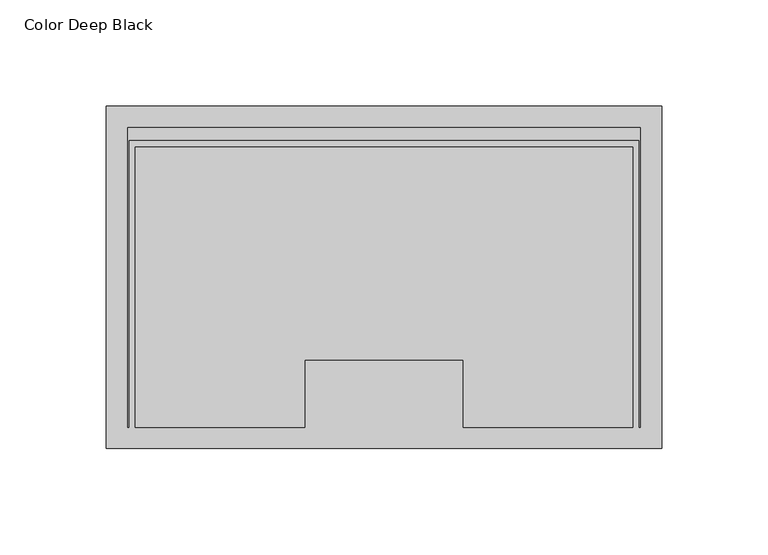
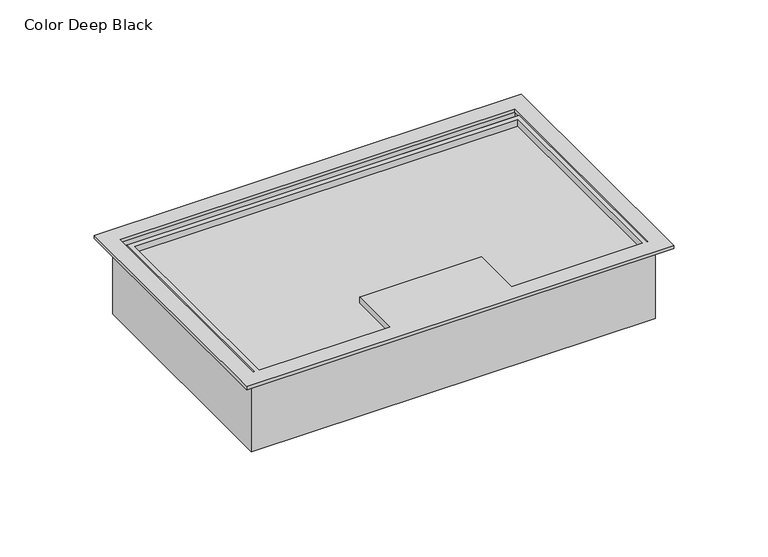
"""IFC4 building model written with IfcOpenShell, lengths in millimetres: proxy geometry, Electrical_Installation_Hager_VE-EE_Cover-KDE04 : Color Deep Black."""

from ifc_helpers import new_model, si_unit, frame, origin, place, context, project, spatial, polyline, outline, extrude, faceted_brep, source, transform, mapped, element, save


def color_deep_black_919f03ab(model_context):
    return source(origin(), model_context, "Body", "SolidModel", [
        faceted_brep([(130.5, 80.5, 2.0), (-130.5, 80.5, 2.0), (-130.5, -80.5, 2.0), (130.5, -80.5, 2.0), (117.0, 61.25, 2.0), (117.0, -70.5, 2.0), (37.25, -70.5, 2.0), (37.25, -38.75, 2.0), (-37.25, -38.75, 2.0), (-37.25, -70.5, 2.0), (-117.0, -70.5, 2.0), (-117.0, 61.25, 2.0), (120.0, 64.5, 2.0), (-120.0, 64.5, 2.0), (-120.0, -70.5, 2.0), (-120.5, -70.5, 2.0), (-120.5, 70.5, 2.0), (120.5, 70.5, 2.0), (120.5, -70.5, 2.0), (120.0, -70.5, 2.0), (120.0, 64.5, -2.0), (120.0, -75.5, -2.0), (34.0, -75.5, -2.0), (-33.5, -75.5, -2.0), (-120.0, -75.5, -2.0), (-120.0, 64.5, -2.0), (117.0, 61.25, -2.0), (-117.0, 61.25, -2.0), (-117.0, -70.5, -2.0), (-37.25, -70.5, -2.0), (-37.25, -38.75, -2.0), (37.25, -38.75, -2.0), (37.25, -70.5, -2.0), (117.0, -70.5, -2.0), (117.0, -70.5, 0.0), (37.25, -70.5, 0.0), (-37.25, -70.5, 0.0), (-117.0, -70.5, 0.0), (-120.0, -75.5, 0.0), (-120.0, -70.5, 0.0), (-33.5, -75.5, 0.0), (34.0, -75.5, 0.0), (120.0, -75.5, 0.0), (120.0, -70.5, 0.0), (130.5, 80.5, 0.0), (130.5, -80.5, 0.0), (-130.5, -80.5, 0.0), (-130.5, 80.5, 0.0), (120.5, 70.5, 0.0), (-120.5, 70.5, 0.0), (-120.5, -70.5, 0.0), (120.5, -70.5, 0.0)], [[[0, 1, 2, 3], [4, 5, 6, 7, 8, 9, 10, 11], [12, 13, 14, 15, 16, 17, 18, 19]], [[20, 21, 22, 23, 24, 25], [26, 27, 28, 29, 30, 31, 32, 33]], [[5, 4, 26, 33, 34]], [[6, 5, 34, 33, 32, 35]], [[7, 6, 35, 32, 31]], [[8, 7, 31, 30]], [[9, 8, 30, 29, 36]], [[10, 9, 36, 29, 28, 37]], [[11, 10, 37, 28, 27]], [[4, 11, 27, 26]], [[13, 12, 20, 25]], [[25, 24, 38, 39, 14, 13]], [[24, 23, 40, 38]], [[23, 22, 41, 40]], [[22, 21, 42, 41]], [[21, 20, 12, 19, 43, 42]], [[44, 45, 46, 47], [48, 49, 50, 39, 38, 40, 41, 42, 43, 51]], [[1, 0, 44, 47]], [[2, 1, 47, 46]], [[3, 2, 46, 45]], [[0, 3, 45, 44]], [[18, 17, 48, 51]], [[16, 15, 50, 49]], [[17, 16, 49, 48]], [[18, 51, 43, 19]], [[50, 15, 14, 39]]]),
        extrude(outline(polyline([(120.5, 70.5), (120.5, -70.5), (-120.5, -70.5), (-120.5, 70.5), (120.5, 70.5)])), frame((0.0, 0.0, -8.0), z_axis=(0.0, 0.0, 1.0), x_axis=(1.0, 0.0, 0.0)), (0.0, 0.0, 1.0), 5.0),
        extrude(outline(polyline([(123.5, -73.5), (-123.5, -73.5), (-123.5, 73.5), (123.5, 73.5), (123.5, -73.5)]), holes=[polyline([(120.5, -70.5), (120.5, 70.5), (-120.5, 70.5), (-120.5, -70.5), (120.5, -70.5)])]), frame((0.0, 0.0, -47.0), z_axis=(0.0, 0.0, 1.0), x_axis=(1.0, 0.0, 0.0)), (0.0, 0.0, 1.0), 47.0),
    ])


if __name__ == "__main__":
    model = new_model("IFC4")
    model_context = context("Model", 3, world=origin())
    ifc_project = project(units=[si_unit("LENGTHUNIT", "METRE", prefix="MILLI")], contexts=[model_context])
    site = spatial("IfcSite", under=ifc_project)
    building = spatial("IfcBuilding", under=site)
    placement = place(None, origin())
    color_deep_black_shape = color_deep_black_919f03ab(model_context)
    element("IfcBuildingElementProxy", 1, Name="Electrical_Installation_Hager_VE-EE_Cover-KDE04 : Color Deep Black", ObjectType="Electrical_Installation_Hager_VE-EE_Cover-KDE04 : Color Deep Black", at=placement, inside=building, context=model_context, shape_type="MappedRepresentation", body=[
        mapped(color_deep_black_shape, transform((0.0, 0.0, 0.0), x_axis=(1.0, 0.0, 0.0), y_axis=(0.0, 1.0, 0.0), z_axis=(0.0, 0.0, 1.0))),
    ])
    save(model, "model.ifc")
